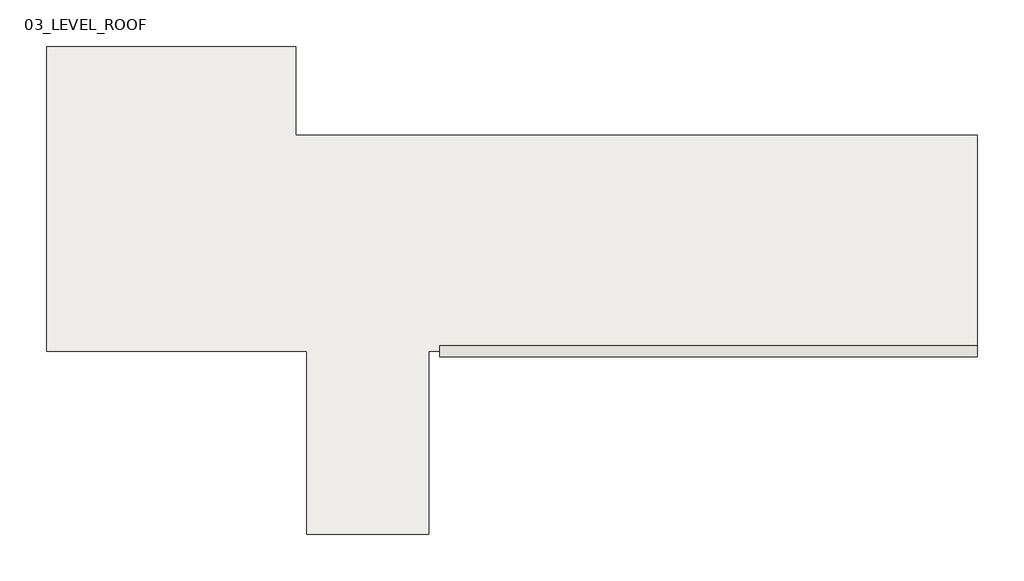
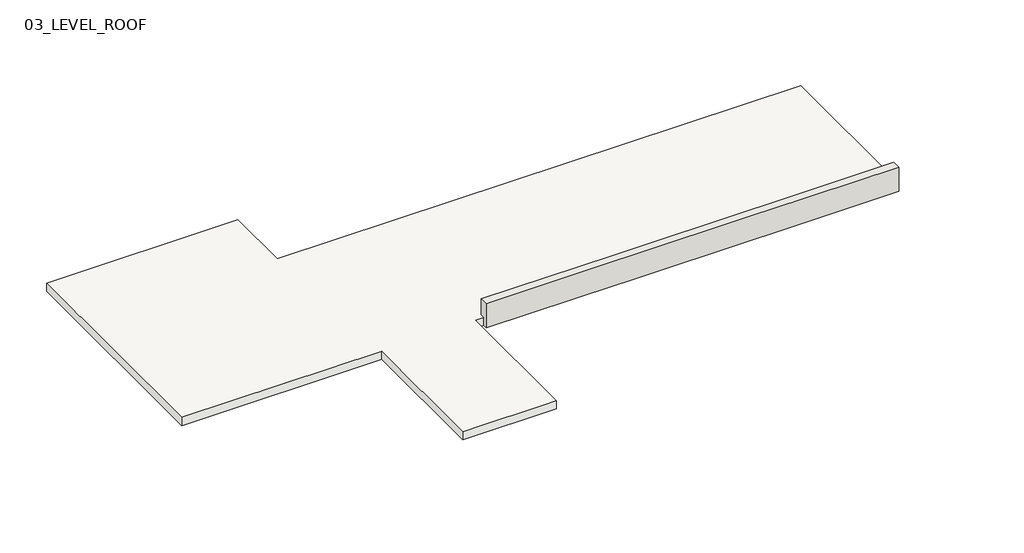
# One storey: 1 roof, 1 wall.
"""IFC4 building model written with IfcOpenShell, lengths in millimetres."""

from ifc_helpers import new_model, si_unit, frame, origin, place, context, project, spatial, polyline, outline, extrude, faceted_brep, element, save

model = new_model("IFC4")

# Units and contexts
model_context = context("Model", 3, world=origin())
ifc_project = project(units=[si_unit("LENGTHUNIT", "METRE", prefix="MILLI")], contexts=[model_context])

# Site, building, storey
site = spatial("IfcSite", under=ifc_project)
building = spatial("IfcBuilding", under=site)
storey = spatial("IfcBuildingStorey", under=building, Name="03_LEVEL_ROOF", Elevation=7315.2)

# Roof
placement = place(None, origin())
element("IfcRoof", 1, ObjectType="Generic - 12\"", at=placement, inside=storey, context=model_context, shape_type="SweptSolid", body=[
    extrude(outline(polyline([(46720.9816981, 31959.9332157), (46720.9816981, 26016.3332157), (31633.3816981, 26016.3332157), (31633.3816981, 20987.1332157), (28280.5816981, 20987.1332157), (28280.5816981, 26016.3332157), (21117.7816981, 26016.3332157), (21117.7816981, 34398.3332157), (27975.7816981, 34398.3332157), (27975.7816981, 31959.9332157), (46720.9816981, 31959.9332157)])), frame((0.0, 0.0, 7315.2), z_axis=(0.0, 0.0, 1.0), x_axis=(1.0, 0.0, 0.0)), (0.0, 0.0, 1.0), 304.8),
])

# Wall
element("IfcWall", 2, ObjectType="Generic - 12\"", at=placement, inside=storey, context=model_context, shape_type="Brep", body=[
    faceted_brep([(46720.9816981, 26168.7332157, 7315.2), (42034.6816981, 26168.7332157, 7315.2), (41653.6816981, 26168.7332157, 7315.2), (37005.4816981, 26168.7332157, 7315.2), (36624.4816981, 26168.7332157, 7315.2), (31938.1816981, 26168.7332157, 7315.2), (31938.1816981, 26168.7332157, 8229.6), (36624.4816981, 26168.7332157, 8229.6), (37005.4816981, 26168.7332157, 8229.6), (41653.6816981, 26168.7332157, 8229.6), (42034.6816981, 26168.7332157, 8229.6), (46720.9816981, 26168.7332157, 8229.6), (46720.9816981, 25863.9332157, 7315.2), (46720.9816981, 25863.9332157, 8229.6), (42034.6816981, 25863.9332157, 8229.6), (41653.6816981, 25863.9332157, 8229.6), (37005.4816981, 25863.9332157, 8229.6), (36624.4816981, 25863.9332157, 8229.6), (31938.1816981, 25863.9332157, 8229.6), (31938.1816981, 25863.9332157, 7315.2), (36624.4816981, 25863.9332157, 7315.2), (37005.4816981, 25863.9332157, 7315.2), (41653.6816981, 25863.9332157, 7315.2), (42034.6816981, 25863.9332157, 7315.2), (31938.1816981, 26016.3332157, 7315.2)], [[[0, 1, 2, 3, 4, 5, 6, 7, 8, 9, 10, 11]], [[12, 13, 14, 15, 16, 17, 18, 19, 20, 21, 22, 23]], [[5, 4, 3, 2, 1, 0, 12, 23, 22, 21, 20, 19, 24]], [[11, 10, 9, 8, 7, 6, 18, 17, 16, 15, 14, 13]], [[6, 5, 24, 19, 18]], [[0, 11, 13, 12]]]),
])

save(model, "model.ifc")
